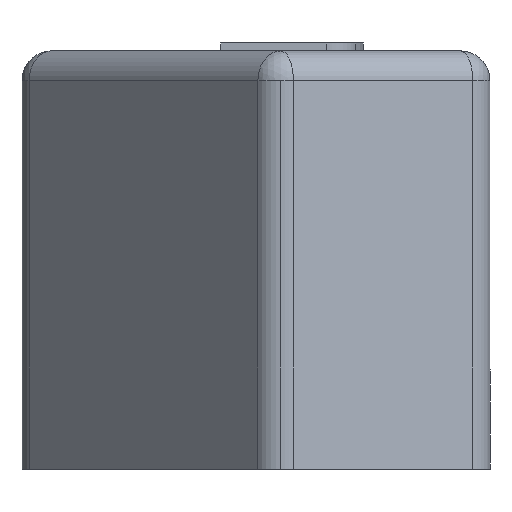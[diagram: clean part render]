
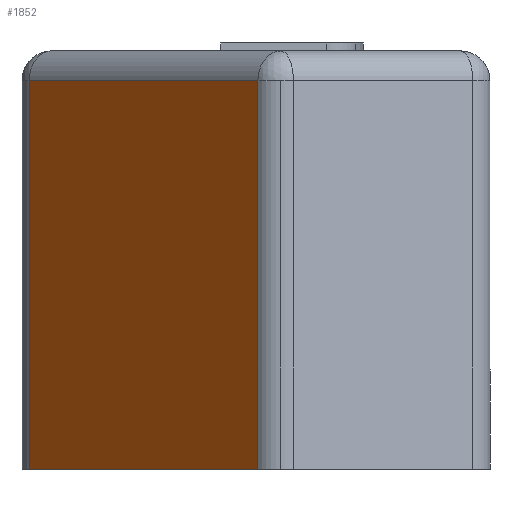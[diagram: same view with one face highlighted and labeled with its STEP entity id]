
A CAD part, left-side view. The second image highlights one B-rep face of the part: STEP entity #1852.
In plain terms, the highlighted planar face has unit normal (-0.646, 0.763, 0).
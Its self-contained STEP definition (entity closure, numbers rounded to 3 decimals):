
#287 = DIRECTION ( 'NONE',  ( 0.763, 0.646, 0. ) ) ;
#776 = ORIENTED_EDGE ( 'NONE', *, *, #5817, .T. ) ;
#1028 = DIRECTION ( 'NONE',  ( 0., 0., 1. ) ) ;
#1279 = CARTESIAN_POINT ( 'NONE',  ( -28.146, -10.342, 20. ) ) ;
#1384 = DIRECTION ( 'NONE',  ( -0.763, -0.646, 0. ) ) ;
#1512 = EDGE_CURVE ( 'NONE', #6333, #4622, #5621, .T. ) ;
#1564 = VERTEX_POINT ( 'NONE', #5793 ) ;
#1583 = VECTOR ( 'NONE', #1384, 1000. ) ;
#1590 = EDGE_CURVE ( 'NONE', #6511, #1564, #4239, .T. ) ;
#1722 = AXIS2_PLACEMENT_3D ( 'NONE', #1279, #5482, #287 ) ;
#1799 = CARTESIAN_POINT ( 'NONE',  ( -13.867, 1.75, 19.5 ) ) ;
#1852 = ADVANCED_FACE ( 'NONE', ( #2231 ), #6428, .F. ) ;
#2046 = CARTESIAN_POINT ( 'NONE',  ( -14.286, 1.395, 0. ) ) ;
#2231 = FACE_OUTER_BOUND ( 'NONE', #5230, .T. ) ;
#2333 = LINE ( 'NONE', #1799, #3117 ) ;
#2590 = EDGE_CURVE ( 'NONE', #1564, #6333, #2333, .T. ) ;
#3044 = CARTESIAN_POINT ( 'NONE',  ( -14.286, 1.395, 20. ) ) ;
#3117 = VECTOR ( 'NONE', #4403, 1000. ) ;
#3965 = LINE ( 'NONE', #6019, #1583 ) ;
#4001 = VECTOR ( 'NONE', #5117, 1000. ) ;
#4239 = LINE ( 'NONE', #6329, #5193 ) ;
#4403 = DIRECTION ( 'NONE',  ( 0.763, 0.646, 0. ) ) ;
#4622 = VERTEX_POINT ( 'NONE', #2046 ) ;
#4681 = ORIENTED_EDGE ( 'NONE', *, *, #1590, .T. ) ;
#5117 = DIRECTION ( 'NONE',  ( 0., 0., -1. ) ) ;
#5193 = VECTOR ( 'NONE', #1028, 1000. ) ;
#5230 = EDGE_LOOP ( 'NONE', ( #6565, #6172, #776, #4681 ) ) ;
#5482 = DIRECTION ( 'NONE',  ( 0.646, -0.763, 0. ) ) ;
#5621 = LINE ( 'NONE', #3044, #4001 ) ;
#5793 = CARTESIAN_POINT ( 'NONE',  ( -27.855, -10.096, 19.5 ) ) ;
#5817 = EDGE_CURVE ( 'NONE', #4622, #6511, #3965, .T. ) ;
#6019 = CARTESIAN_POINT ( 'NONE',  ( -28.146, -10.342, 0. ) ) ;
#6093 = CARTESIAN_POINT ( 'NONE',  ( -14.286, 1.395, 19.5 ) ) ;
#6172 = ORIENTED_EDGE ( 'NONE', *, *, #1512, .T. ) ;
#6183 = CARTESIAN_POINT ( 'NONE',  ( -27.855, -10.096, 0. ) ) ;
#6329 = CARTESIAN_POINT ( 'NONE',  ( -27.855, -10.096, 20. ) ) ;
#6333 = VERTEX_POINT ( 'NONE', #6093 ) ;
#6428 = PLANE ( 'NONE',  #1722 ) ;
#6511 = VERTEX_POINT ( 'NONE', #6183 ) ;
#6565 = ORIENTED_EDGE ( 'NONE', *, *, #2590, .T. ) ;
